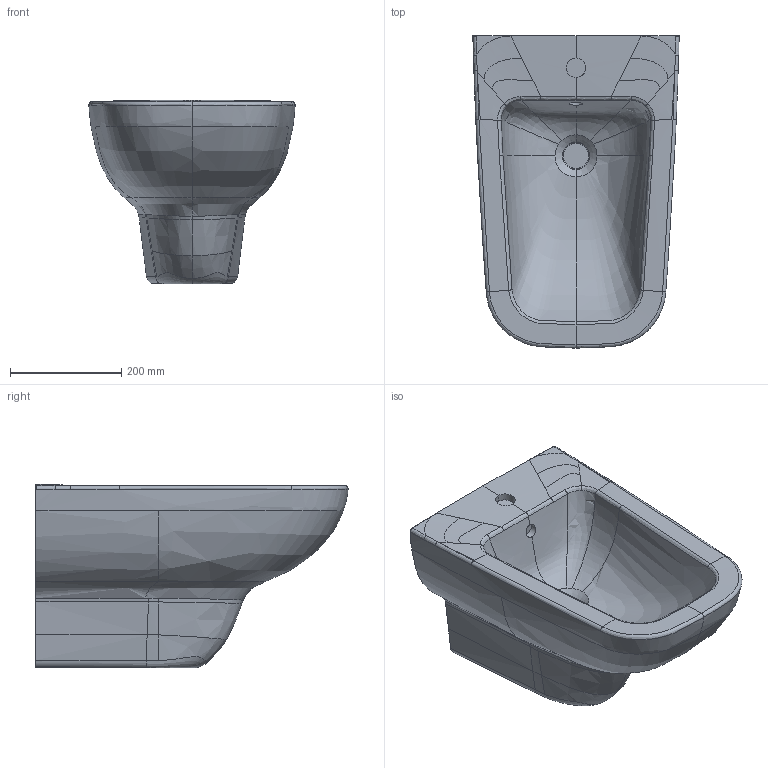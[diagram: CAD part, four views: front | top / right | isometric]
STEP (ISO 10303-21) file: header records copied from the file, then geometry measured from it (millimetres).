
FILE_DESCRIPTION(/* description */ (''),/* implementation_level */ '2;1');
FILE_NAME(/* name */ '540700_Joyce_WBD.stp',/* time_stamp */ '2019-03-13T08:36:49+01:00',/* author */ (''),/* organization */ (''),/* preprocessor_version */ 'ST-DEVELOPER v16',/* originating_system */ 'SIEMENS PLM Software NX 10.0',/* authorisation */ '');
FILE_SCHEMA (('AUTOMOTIVE_DESIGN { 1 0 10303 214 3 1 1 1 }'));
Length unit declared in the file: millimetre
Products named in the file (1): Sier18D045B4aj26
Bounding box: 370.2 x 560.03 x 330.02 mm (x, y, z)
Volume: 25936671.5 mm3; surface area: 771856.7 mm2
Topology: 1 solids, 1 shells, 114 faces, 287 edges, 172 vertices
Faces by surface type: bspline 99, cylinder 5, torus 4, plane 2, extrusion 2, cone 2
Full cylindrical faces by diameter (mm): 24 x1
Entity records: 32691 total; most frequent: CARTESIAN_POINT 30820, ORIENTED_EDGE 564, EDGE_CURVE 282, B_SPLINE_CURVE_WITH_KNOTS 235, VERTEX_POINT 171, EDGE_LOOP 115, ADVANCED_FACE 114, FACE_OUTER_BOUND 113
